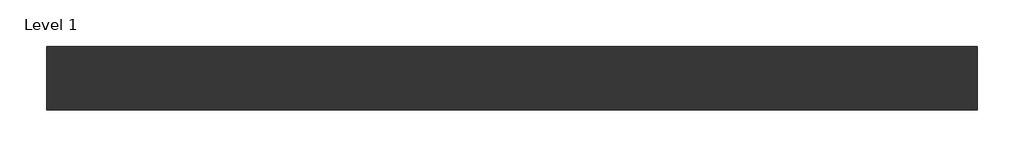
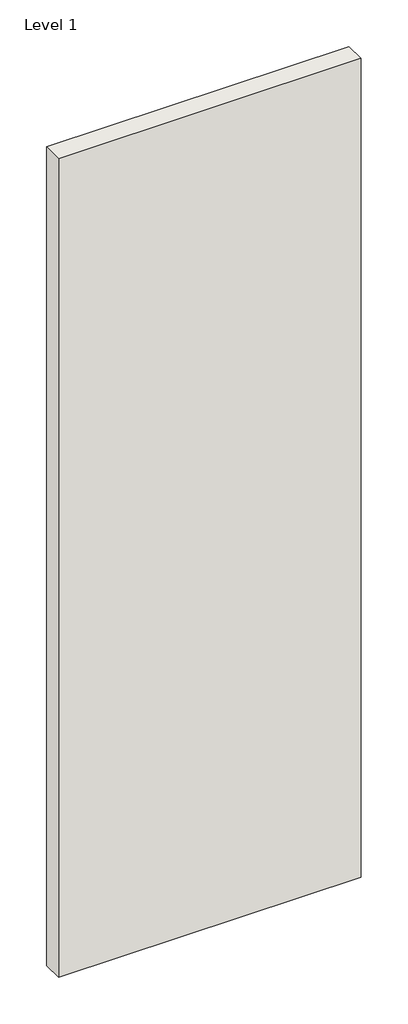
# One storey: 1 wall.
"""IFC4 building model written with IfcOpenShell, lengths in millimetres."""

from ifc_helpers import new_model, si_unit, origin, origin_with_axes, place, context, project, spatial, polyline, outline, extrude, element, save

model = new_model("IFC4")

# Units and contexts
model_context = context("Model", 3, world=origin())
ifc_project = project(units=[si_unit("LENGTHUNIT", "METRE", prefix="MILLI")], contexts=[model_context])

# Site, building, storey
site = spatial("IfcSite", under=ifc_project)
building = spatial("IfcBuilding", under=site)
storey = spatial("IfcBuildingStorey", under=building, Name="Level 1", Elevation=0.0)

# Wall
placement = place(None, origin())
element("IfcWall", 1, ObjectType="Interior-Steel Frame-Lined One Side-CSR7450-96mm", at=placement, inside=storey, context=model_context, shape_type="SweptSolid", body=[
    extrude(outline(polyline([(-124.6491783, -613.2049253), (1275.3508217, -613.2049253), (1275.3508217, -709.2049253), (-124.6491783, -709.2049253), (-124.6491783, -613.2049253)])), origin_with_axes(), (0.0, 0.0, 1.0), 4000.0),
])

save(model, "model.ifc")
